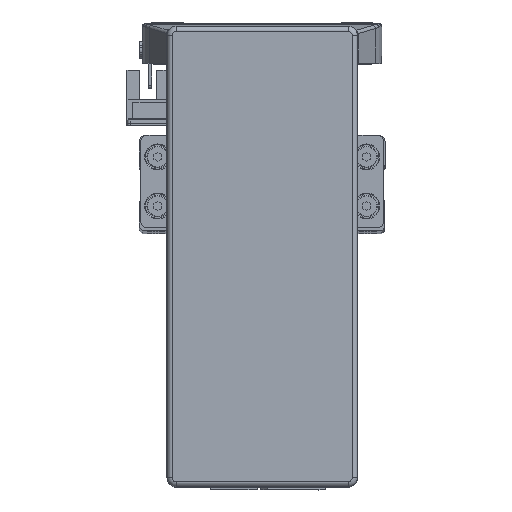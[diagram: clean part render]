
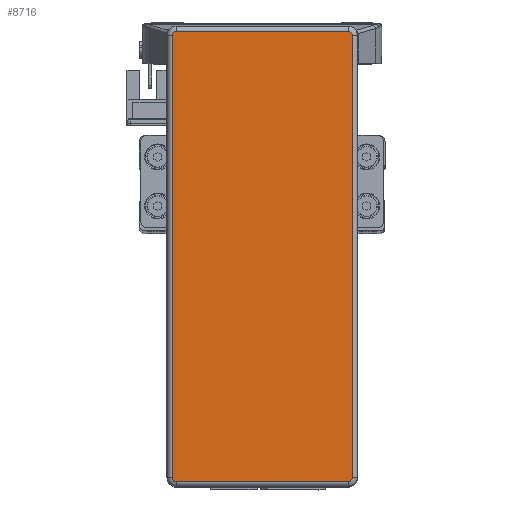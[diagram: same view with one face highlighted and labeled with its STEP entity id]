
A CAD part, top view. The second image highlights one B-rep face of the part: STEP entity #8716.
In plain terms, the highlighted planar face has unit normal (0, 0, 1) as drawn and (0, 0, -1) by its records, which use the part's own axes.
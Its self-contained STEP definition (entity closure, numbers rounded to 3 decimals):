
#2868 = EDGE_CURVE ( 'NONE', #13750, #13822, #44111, .T. ) ;
#2871 = EDGE_CURVE ( 'NONE', #13749, #13763, #44049, .T. ) ;
#2872 = EDGE_CURVE ( 'NONE', #13763, #13741, #44109, .T. ) ;
#2879 = EDGE_CURVE ( 'NONE', #13822, #13781, #44065, .T. ) ;
#2882 = EDGE_CURVE ( 'NONE', #13741, #13819, #44062, .T. ) ;
#2886 = EDGE_CURVE ( 'NONE', #13781, #13749, #44069, .T. ) ;
#2889 = EDGE_CURVE ( 'NONE', #13733, #13750, #44177, .T. ) ;
#2910 = EDGE_CURVE ( 'NONE', #13819, #13733, #44152, .T. ) ;
#3578 = AXIS2_PLACEMENT_3D ( 'NONE', #39022, #39092, #39110 ) ;
#3618 = AXIS2_PLACEMENT_3D ( 'NONE', #38934, #38886, #38985 ) ;
#3623 = AXIS2_PLACEMENT_3D ( 'NONE', #39015, #39121, #39124 ) ;
#3627 = AXIS2_PLACEMENT_3D ( 'NONE', #39002, #39019, #39012 ) ;
#8716 = ADVANCED_FACE ( 'NONE', ( #36706 ), #17850, .F. ) ;
#13266 = ORIENTED_EDGE ( 'NONE', *, *, #2882, .T. ) ;
#13271 = ORIENTED_EDGE ( 'NONE', *, *, #2871, .T. ) ;
#13278 = ORIENTED_EDGE ( 'NONE', *, *, #2879, .T. ) ;
#13279 = ORIENTED_EDGE ( 'NONE', *, *, #2910, .T. ) ;
#13733 = VERTEX_POINT ( 'NONE', #18739 ) ;
#13741 = VERTEX_POINT ( 'NONE', #18748 ) ;
#13749 = VERTEX_POINT ( 'NONE', #18737 ) ;
#13750 = VERTEX_POINT ( 'NONE', #18681 ) ;
#13763 = VERTEX_POINT ( 'NONE', #18770 ) ;
#13781 = VERTEX_POINT ( 'NONE', #18780 ) ;
#13819 = VERTEX_POINT ( 'NONE', #18800 ) ;
#13822 = VERTEX_POINT ( 'NONE', #18839 ) ;
#14295 = EDGE_LOOP ( 'NONE', ( #33456, #13278, #33493, #13271, #33440, #13266, #13279, #33446 ) ) ;
#17778 = DIRECTION ( 'NONE',  ( 0., 0., 1. ) ) ;
#17789 = CARTESIAN_POINT ( 'NONE',  ( 71.995, -27.995, -32.2 ) ) ;
#17850 = PLANE ( 'NONE',  #34373 ) ;
#17854 = DIRECTION ( 'NONE',  ( 1., 0., 0. ) ) ;
#18681 = CARTESIAN_POINT ( 'NONE',  ( 73.295, 27.995, -32.2 ) ) ;
#18737 = CARTESIAN_POINT ( 'NONE',  ( -71.995, -29.295, -32.2 ) ) ;
#18739 = CARTESIAN_POINT ( 'NONE',  ( 71.995, 29.295, -32.2 ) ) ;
#18748 = CARTESIAN_POINT ( 'NONE',  ( -73.295, 27.995, -32.2 ) ) ;
#18770 = CARTESIAN_POINT ( 'NONE',  ( -73.295, -27.995, -32.2 ) ) ;
#18780 = CARTESIAN_POINT ( 'NONE',  ( 71.995, -29.295, -32.2 ) ) ;
#18800 = CARTESIAN_POINT ( 'NONE',  ( -71.995, 29.295, -32.2 ) ) ;
#18839 = CARTESIAN_POINT ( 'NONE',  ( 73.295, -27.995, -32.2 ) ) ;
#33440 = ORIENTED_EDGE ( 'NONE', *, *, #2872, .T. ) ;
#33446 = ORIENTED_EDGE ( 'NONE', *, *, #2889, .T. ) ;
#33456 = ORIENTED_EDGE ( 'NONE', *, *, #2868, .T. ) ;
#33493 = ORIENTED_EDGE ( 'NONE', *, *, #2886, .T. ) ;
#34373 = AXIS2_PLACEMENT_3D ( 'NONE', #17789, #17778, #17854 ) ;
#36706 = FACE_OUTER_BOUND ( 'NONE', #14295, .T. ) ;
#38879 = CARTESIAN_POINT ( 'NONE',  ( 73.295, -27.995, -32.2 ) ) ;
#38886 = DIRECTION ( 'NONE',  ( 0., 0., -1. ) ) ;
#38912 = DIRECTION ( 'NONE',  ( 0., -1., 0. ) ) ;
#38934 = CARTESIAN_POINT ( 'NONE',  ( -71.995, -27.995, -32.2 ) ) ;
#38962 = CARTESIAN_POINT ( 'NONE',  ( -73.295, -27.995, -32.2 ) ) ;
#38965 = DIRECTION ( 'NONE',  ( 0., 1., 0. ) ) ;
#38985 = DIRECTION ( 'NONE',  ( 1., 0., 0. ) ) ;
#39002 = CARTESIAN_POINT ( 'NONE',  ( 71.995, 27.995, -32.2 ) ) ;
#39012 = DIRECTION ( 'NONE',  ( 1., 0., 0. ) ) ;
#39015 = CARTESIAN_POINT ( 'NONE',  ( -71.995, 27.995, -32.2 ) ) ;
#39019 = DIRECTION ( 'NONE',  ( 0., 0., -1. ) ) ;
#39022 = CARTESIAN_POINT ( 'NONE',  ( 71.995, -27.995, -32.2 ) ) ;
#39033 = CARTESIAN_POINT ( 'NONE',  ( 71.995, -29.295, -32.2 ) ) ;
#39062 = DIRECTION ( 'NONE',  ( -1., 0., 0. ) ) ;
#39092 = DIRECTION ( 'NONE',  ( 0., 0., -1. ) ) ;
#39110 = DIRECTION ( 'NONE',  ( 1., 0., 0. ) ) ;
#39121 = DIRECTION ( 'NONE',  ( 0., 0., -1. ) ) ;
#39124 = DIRECTION ( 'NONE',  ( 1., 0., 0. ) ) ;
#39171 = CARTESIAN_POINT ( 'NONE',  ( 71.995, 29.295, -32.2 ) ) ;
#39195 = DIRECTION ( 'NONE',  ( 1., 0., 0. ) ) ;
#44049 = CIRCLE ( 'NONE', #3618, 1.3 ) ;
#44062 = CIRCLE ( 'NONE', #3623, 1.3 ) ;
#44065 = CIRCLE ( 'NONE', #3578, 1.3 ) ;
#44069 = LINE ( 'NONE', #39033, #44070 ) ;
#44070 = VECTOR ( 'NONE', #39062, 1000. ) ;
#44080 = VECTOR ( 'NONE', #38965, 1000. ) ;
#44109 = LINE ( 'NONE', #38962, #44080 ) ;
#44111 = LINE ( 'NONE', #38879, #44112 ) ;
#44112 = VECTOR ( 'NONE', #38912, 1000. ) ;
#44145 = VECTOR ( 'NONE', #39195, 1000. ) ;
#44152 = LINE ( 'NONE', #39171, #44145 ) ;
#44177 = CIRCLE ( 'NONE', #3627, 1.3 ) ;
